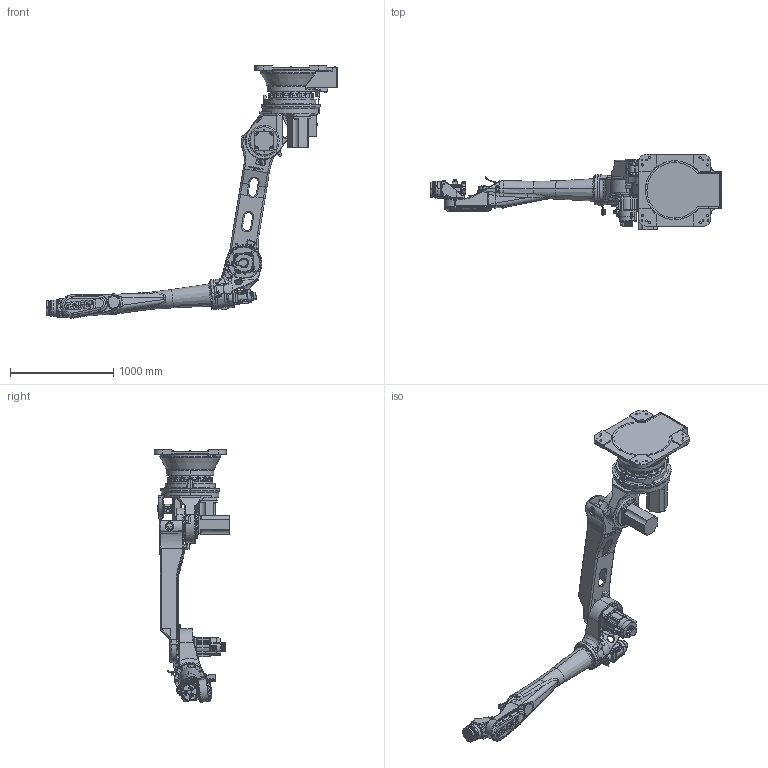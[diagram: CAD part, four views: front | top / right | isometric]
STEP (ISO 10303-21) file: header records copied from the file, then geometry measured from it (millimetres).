
FILE_DESCRIPTION (( 'STEP AP214' ), '1' );
FILE_NAME ('LT3200-FD-6.STP', '2025-07-15T09:12:20', ( '' ), ( '' ), 'SwSTEP 2.0', 'SolidWorks 2022', '' );
FILE_SCHEMA (( 'AUTOMOTIVE_DESIGN' ));
Length unit declared in the file: millimetre
Products named in the file (7): 4; 1; 6; 3; LT3200-FD-6; 2; 5
Assembly tree (6 placements, depth 2):
  LT3200-FD-6
    1
    2
    3
    4
    5
    6
Bounding box: 2829.84 x 733.5 x 2447.64 mm (x, y, z)
Surface area: 9501582.2 mm2 (no closed solid volume)
Topology: 0 solids, 549 shells, 4189 faces, 15625 edges, 11486 vertices
Faces by surface type: cylinder 1602, plane 1486, bspline 540, torus 349, cone 167, sphere 45
Entity records: 356357 total; most frequent: CARTESIAN_POINT 214581, ORIENTED_EDGE 23104, EDGE_CURVE 15551, B_SPLINE_CURVE_WITH_KNOTS 14807, VERTEX_POINT 11477, DIRECTION 7568, EDGE_LOOP 5138, UNCERTAINTY_MEASURE_WITH_UNIT 4204
